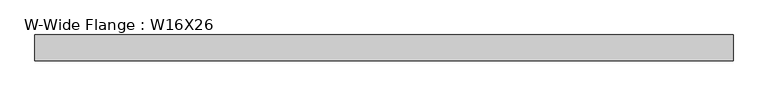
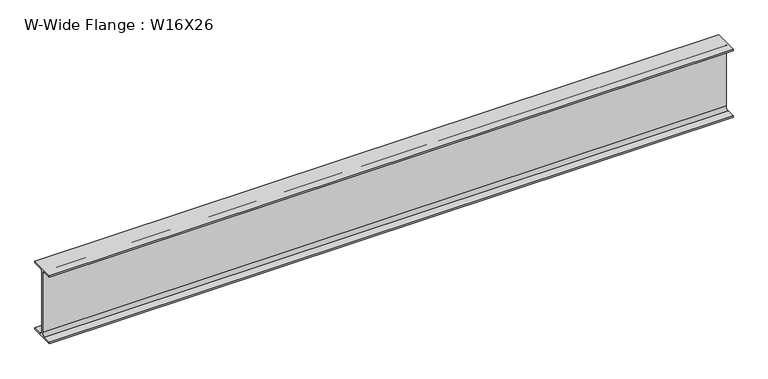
"""IFC4 building model written with IfcOpenShell, lengths in millimetres: beam geometry, W-Wide Flange : W16X26."""

from ifc_helpers import new_model, si_unit, point, frame, frame_2d, origin, place, context, project, spatial, polyline, circle_curve, trimmed, segment, composite_curve, outline, extrude, source, transform, mapped, element, save


def w_wide_flange_w16x26_7b0e4888(model_context):
    return source(origin(), model_context, "Body", "SweptSolid", [
        extrude(outline(composite_curve([segment(polyline([(69.85, -190.5496094), (69.85, -199.2808594), (-69.85, -199.2808594), (-69.85, -190.5496094), (-21.43125, -190.5496094)]), True, "CONTINUOUS"), segment(trimmed(circle_curve(frame_2d((-21.43125, -172.2933594)), 18.25625), [point((-21.43125, -190.5496094))], [point((-3.175, -172.2933594))], True, "CARTESIAN"), True, "CONTINUOUS"), segment(polyline([(-3.175, -172.2933594), (-3.175, 172.2933594)]), True, "CONTINUOUS"), segment(trimmed(circle_curve(frame_2d((-21.43125, 172.2933594)), 18.25625), [point((-3.175, 172.2933594))], [point((-21.43125, 190.5496094))], True, "CARTESIAN"), True, "CONTINUOUS"), segment(polyline([(-21.43125, 190.5496094), (-69.85, 190.5496094), (-69.85, 199.2808594), (69.85, 199.2808594), (69.85, 190.5496094), (21.43125, 190.5496094)]), True, "CONTINUOUS"), segment(trimmed(circle_curve(frame_2d((21.43125, 172.2933594)), 18.25625), [point((21.43125, 190.5496094))], [point((3.175, 172.2933594))], True, "CARTESIAN"), True, "CONTINUOUS"), segment(polyline([(3.175, 172.2933594), (3.175, -172.2933594)]), True, "CONTINUOUS"), segment(trimmed(circle_curve(frame_2d((21.43125, -172.2933594)), 18.25625), [point((3.175, -172.2933594))], [point((21.43125, -190.5496094))], True, "CARTESIAN"), True, "CONTINUOUS"), segment(polyline([(21.43125, -190.5496094), (69.85, -190.5496094)]), True, "CONTINUOUS")], self_intersect=False)), frame((-1892.3, 0.0, 0.0), z_axis=(1.0, 0.0, 0.0), x_axis=(0.0, 1.0, 0.0)), (0.0, 0.0, 1.0), 3784.6),
    ])


if __name__ == "__main__":
    model = new_model("IFC4")
    model_context = context("Model", 3, world=origin())
    ifc_project = project(units=[si_unit("LENGTHUNIT", "METRE", prefix="MILLI")], contexts=[model_context])
    site = spatial("IfcSite", under=ifc_project)
    building = spatial("IfcBuilding", under=site)
    placement = place(None, origin())
    w_wide_flange_w16x26_shape = w_wide_flange_w16x26_7b0e4888(model_context)
    element("IfcBeam", 1, ObjectType="W-Wide Flange : W16X26", at=placement, inside=building, context=model_context, shape_type="MappedRepresentation", body=[
        mapped(w_wide_flange_w16x26_shape, transform((0.0, 0.0, 0.0), x_axis=(1.0, 0.0, 0.0), y_axis=(0.0, 1.0, 0.0), z_axis=(0.0, 0.0, 1.0))),
    ])
    save(model, "model.ifc")
